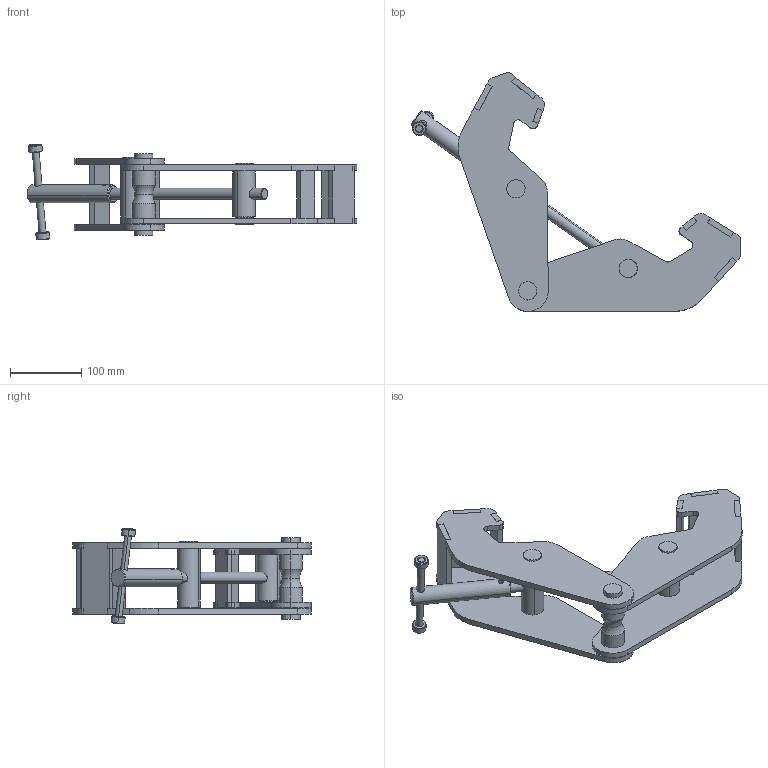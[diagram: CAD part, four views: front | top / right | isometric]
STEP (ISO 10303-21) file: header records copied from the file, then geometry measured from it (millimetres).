
FILE_DESCRIPTION (( 'STEP AP214' ), '1' );
FILE_NAME ('OZ3BC.STEP', '2023-03-16T13:21:23', ( '' ), ( '' ), 'SwSTEP 2.0', 'SolidWorks 2021', '' );
FILE_SCHEMA (( 'AUTOMOTIVE_DESIGN' ));
Length unit declared in the file: inch
Products named in the file (13): OZ3BC-HR01-A-CI; OZ3BC-WP04-A-CI; OZ3BC; OZ3BC-SP01-A-CI; OZ3BC-WP02-A-CI; OZ3BC-WP03-A-CI; OZ3BC-PP02-A-CI; OZ3BC-LP01-A-CI; OZ3BC-RE01-A-CI; OZ3BC-TR01-A-CI; OZ3BC-WP01-A-CI; OZ3BC-HB01-A-CI; OZ3BC-PP01-A-CI
Assembly tree (18 placements, depth 2):
  OZ3BC
    OZ3BC-SP01-A-CI  x4
    OZ3BC-WP01-A-CI
    OZ3BC-WP03-A-CI  x2
    OZ3BC-LP01-A-CI
    OZ3BC-PP01-A-CI
    OZ3BC-WP02-A-CI
    OZ3BC-WP04-A-CI  x2
    OZ3BC-PP02-A-CI
    OZ3BC-TR01-A-CI
    OZ3BC-HB01-A-CI
    OZ3BC-HR01-A-CI
    OZ3BC-RE01-A-CI  x2
Bounding box: 462.02 x 334.53 x 134.48 mm (x, y, z)
Volume: 1268119 mm3; surface area: 351265.5 mm2
Topology: 18 solids, 18 shells, 364 faces, 912 edges, 592 vertices
Faces by surface type: plane 200, cylinder 110, cone 26, bspline 16, torus 12
Entity records: 21326 total; most frequent: CARTESIAN_POINT 15835, DIRECTION 988, ORIENTED_EDGE 976, EDGE_CURVE 488, AXIS2_PLACEMENT_3D 351, VERTEX_POINT 312, LINE 286, VECTOR 286
